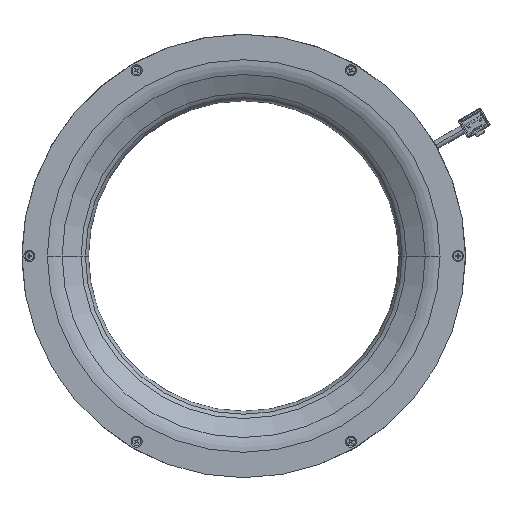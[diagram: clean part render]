
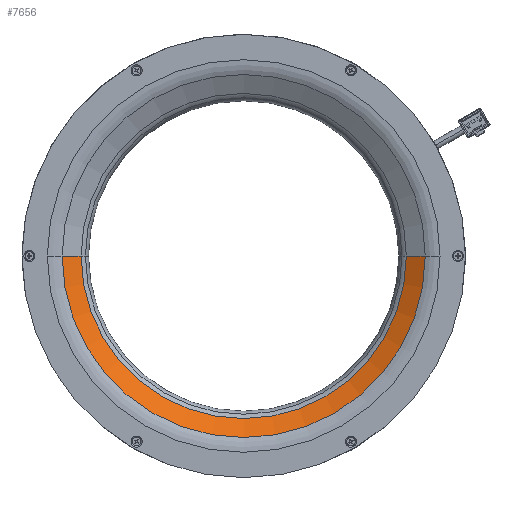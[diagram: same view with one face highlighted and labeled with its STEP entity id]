
A CAD part, front view. The second image highlights one B-rep face of the part: STEP entity #7656.
In plain terms, the highlighted conical face has half-angle 60 degrees and reference radius 69.848 mm.
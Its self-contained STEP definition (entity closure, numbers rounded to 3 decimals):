
#6769=CARTESIAN_POINT('',(0.,-16.949,0.));
#6770=DIRECTION('',(0.,1.,0.));
#6771=DIRECTION('',(1.,0.,0.));
#6772=AXIS2_PLACEMENT_3D('',#6769,#6770,#6771);
#6784=DIRECTION('',(0.866,0.5,0.));
#6785=VECTOR('',#6784,8.886);
#6786=CARTESIAN_POINT('',(-73.696,-21.392,0.));
#6787=LINE('',#6786,#6785);
#6788=DIRECTION('',(-0.866,0.5,0.));
#6789=VECTOR('',#6788,8.886);
#6790=CARTESIAN_POINT('',(73.696,-21.392,0.));
#6791=LINE('',#6790,#6789);
#6807=CARTESIAN_POINT('',(0.,-21.392,0.));
#6808=DIRECTION('',(0.,-1.,0.));
#6809=DIRECTION('',(-1.,0.,0.));
#6810=AXIS2_PLACEMENT_3D('',#6807,#6808,#6809);
#7288=CARTESIAN_POINT('',(66.,-16.949,0.));
#7289=VERTEX_POINT('',#7288);
#7290=CARTESIAN_POINT('',(-66.,-16.949,0.));
#7291=VERTEX_POINT('',#7290);
#7292=CARTESIAN_POINT('',(73.696,-21.392,0.));
#7293=VERTEX_POINT('',#7292);
#7294=CARTESIAN_POINT('',(-73.696,-21.392,0.));
#7295=VERTEX_POINT('',#7294);
#7642=CARTESIAN_POINT('',(0.,-19.171,0.));
#7643=DIRECTION('',(0.,-1.,0.));
#7644=DIRECTION('',(-1.,0.,0.));
#7645=AXIS2_PLACEMENT_3D('',#7642,#7643,#7644);
#7646=CONICAL_SURFACE('',#7645,69.848,60.);
#7648=ORIENTED_EDGE('',*,*,#7647,.F.);
#7650=ORIENTED_EDGE('',*,*,#7649,.F.);
#7652=ORIENTED_EDGE('',*,*,#7651,.T.);
#7653=ORIENTED_EDGE('',*,*,#7635,.F.);
#7654=EDGE_LOOP('',(#7648,#7650,#7652,#7653));
#7655=FACE_OUTER_BOUND('',#7654,.F.);
#6773=CIRCLE('',#6772,66.);
#6811=CIRCLE('',#6810,73.696);
#7635=EDGE_CURVE('',#7289,#7291,#6773,.T.);
#7647=EDGE_CURVE('',#7293,#7289,#6791,.T.);
#7649=EDGE_CURVE('',#7295,#7293,#6811,.T.);
#7651=EDGE_CURVE('',#7295,#7291,#6787,.T.);
#7656=ADVANCED_FACE('',(#7655),#7646,.F.);
